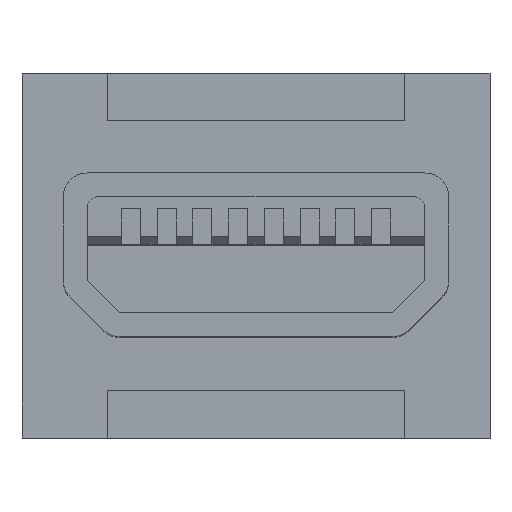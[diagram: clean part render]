
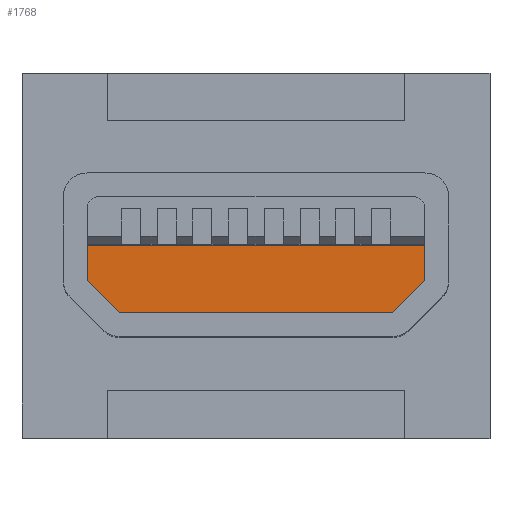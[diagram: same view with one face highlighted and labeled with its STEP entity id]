
A CAD part, top view. The second image highlights one B-rep face of the part: STEP entity #1768.
In plain terms, the highlighted planar face has unit normal (0, 0, 1).
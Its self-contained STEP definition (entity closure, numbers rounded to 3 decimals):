
#20 = VECTOR ( 'NONE', #644, 1000. ) ;
#28 = PLANE ( 'NONE',  #630 ) ;
#216 = LINE ( 'NONE', #2802, #2778 ) ;
#255 = EDGE_CURVE ( 'NONE', #1327, #2135, #924, .T. ) ;
#265 = VECTOR ( 'NONE', #2289, 1000. ) ;
#291 = VECTOR ( 'NONE', #1575, 1000. ) ;
#323 = DIRECTION ( 'NONE',  ( 1., 0., 0. ) ) ;
#450 = CARTESIAN_POINT ( 'NONE',  ( -1.171, -4.095, -6.8 ) ) ;
#497 = EDGE_LOOP ( 'NONE', ( #2280, #1434, #1844, #1397, #2470, #1213 ) ) ;
#516 = CARTESIAN_POINT ( 'NONE',  ( -5.431, -3.639, -6.8 ) ) ;
#518 = DIRECTION ( 'NONE',  ( 0., 0., 1. ) ) ;
#563 = VERTEX_POINT ( 'NONE', #2131 ) ;
#610 = CARTESIAN_POINT ( 'NONE',  ( -1.576, -4.499, -6.8 ) ) ;
#630 = AXIS2_PLACEMENT_3D ( 'NONE', #1788, #518, #936 ) ;
#644 = DIRECTION ( 'NONE',  ( 0., -1., 0. ) ) ;
#676 = EDGE_CURVE ( 'NONE', #1474, #563, #830, .T. ) ;
#830 = LINE ( 'NONE', #1997, #20 ) ;
#924 = LINE ( 'NONE', #450, #291 ) ;
#936 = DIRECTION ( 'NONE',  ( 1., 0., 0. ) ) ;
#1059 = CARTESIAN_POINT ( 'NONE',  ( -1.171, -4.095, -6.8 ) ) ;
#1213 = ORIENTED_EDGE ( 'NONE', *, *, #255, .T. ) ;
#1327 = VERTEX_POINT ( 'NONE', #610 ) ;
#1369 = EDGE_CURVE ( 'NONE', #1566, #1327, #2103, .T. ) ;
#1397 = ORIENTED_EDGE ( 'NONE', *, *, #2023, .T. ) ;
#1432 = CARTESIAN_POINT ( 'NONE',  ( -5.027, -4.499, -6.8 ) ) ;
#1434 = ORIENTED_EDGE ( 'NONE', *, *, #1822, .F. ) ;
#1474 = VERTEX_POINT ( 'NONE', #1608 ) ;
#1566 = VERTEX_POINT ( 'NONE', #1432 ) ;
#1575 = DIRECTION ( 'NONE',  ( 0.707, 0.707, 0. ) ) ;
#1608 = CARTESIAN_POINT ( 'NONE',  ( -5.431, -3.639, -6.8 ) ) ;
#1768 = ADVANCED_FACE ( 'NONE', ( #2543 ), #28, .T. ) ;
#1788 = CARTESIAN_POINT ( 'NONE',  ( -1.171, -4.095, -6.8 ) ) ;
#1822 = EDGE_CURVE ( 'NONE', #1474, #2277, #2474, .T. ) ;
#1842 = CARTESIAN_POINT ( 'NONE',  ( -1.171, -4.499, -6.8 ) ) ;
#1844 = ORIENTED_EDGE ( 'NONE', *, *, #676, .T. ) ;
#1880 = CARTESIAN_POINT ( 'NONE',  ( -1.171, -3.639, -6.8 ) ) ;
#1997 = CARTESIAN_POINT ( 'NONE',  ( -5.431, -4.095, -6.8 ) ) ;
#2023 = EDGE_CURVE ( 'NONE', #563, #1566, #2819, .T. ) ;
#2095 = EDGE_CURVE ( 'NONE', #2135, #2277, #216, .T. ) ;
#2103 = LINE ( 'NONE', #1842, #265 ) ;
#2130 = VECTOR ( 'NONE', #2591, 1000. ) ;
#2131 = CARTESIAN_POINT ( 'NONE',  ( -5.431, -4.095, -6.8 ) ) ;
#2135 = VERTEX_POINT ( 'NONE', #1059 ) ;
#2277 = VERTEX_POINT ( 'NONE', #1880 ) ;
#2280 = ORIENTED_EDGE ( 'NONE', *, *, #2095, .T. ) ;
#2289 = DIRECTION ( 'NONE',  ( 1., 0., 0. ) ) ;
#2333 = CARTESIAN_POINT ( 'NONE',  ( -3.301, -6.225, -6.8 ) ) ;
#2470 = ORIENTED_EDGE ( 'NONE', *, *, #1369, .T. ) ;
#2474 = LINE ( 'NONE', #516, #2782 ) ;
#2543 = FACE_OUTER_BOUND ( 'NONE', #497, .T. ) ;
#2591 = DIRECTION ( 'NONE',  ( 0.707, -0.707, 0. ) ) ;
#2778 = VECTOR ( 'NONE', #2791, 1000. ) ;
#2782 = VECTOR ( 'NONE', #323, 1000. ) ;
#2791 = DIRECTION ( 'NONE',  ( 0., 1., 0. ) ) ;
#2802 = CARTESIAN_POINT ( 'NONE',  ( -1.171, -4.095, -6.8 ) ) ;
#2819 = LINE ( 'NONE', #2333, #2130 ) ;
